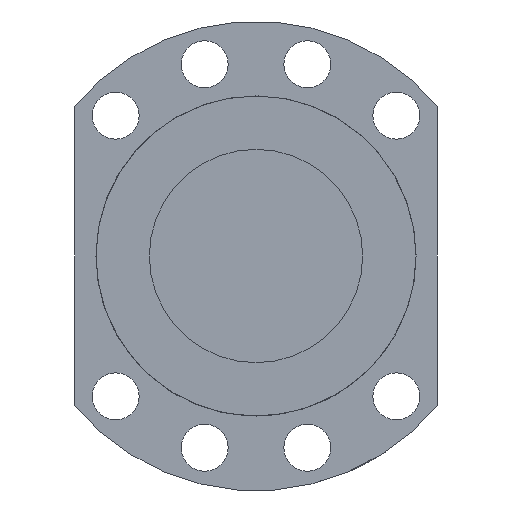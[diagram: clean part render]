
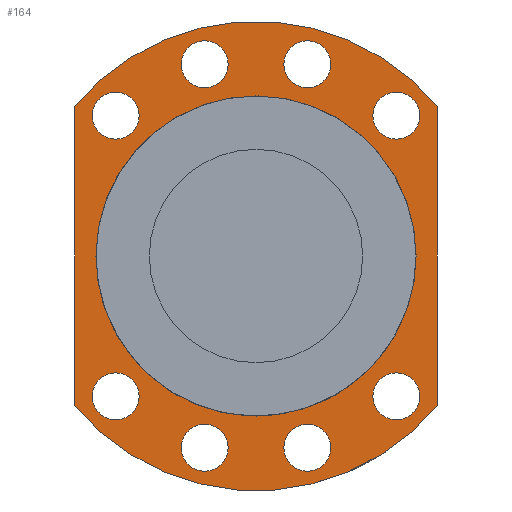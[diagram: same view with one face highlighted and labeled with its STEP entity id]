
A CAD part, front view. The second image highlights one B-rep face of the part: STEP entity #164.
In plain terms, the highlighted planar face has unit normal (0, -1, 0).
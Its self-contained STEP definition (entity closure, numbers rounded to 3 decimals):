
#98=LINE('',#921,#108);
#102=LINE('',#992,#112);
#108=VECTOR('',#729,1.);
#112=VECTOR('',#741,1.);
#137=PLANE('',#646);
#164=ADVANCED_FACE('',(#234,#235,#236,#237,#238,#239,#240,#241,#242,#243),
#137,.F.);
#234=FACE_BOUND('',#311,.T.);
#235=FACE_BOUND('',#312,.T.);
#236=FACE_BOUND('',#313,.T.);
#237=FACE_BOUND('',#314,.T.);
#238=FACE_BOUND('',#315,.T.);
#239=FACE_BOUND('',#316,.T.);
#240=FACE_BOUND('',#317,.T.);
#241=FACE_BOUND('',#318,.T.);
#242=FACE_BOUND('',#319,.T.);
#243=FACE_BOUND('',#320,.T.);
#311=EDGE_LOOP('',(#405));
#312=EDGE_LOOP('',(#406));
#313=EDGE_LOOP('',(#407));
#314=EDGE_LOOP('',(#408));
#315=EDGE_LOOP('',(#409));
#316=EDGE_LOOP('',(#410));
#317=EDGE_LOOP('',(#411));
#318=EDGE_LOOP('',(#412));
#319=EDGE_LOOP('',(#413));
#320=EDGE_LOOP('',(#414,#415,#416,#417));
#405=ORIENTED_EDGE('',*,*,#537,.F.);
#406=ORIENTED_EDGE('',*,*,#538,.F.);
#407=ORIENTED_EDGE('',*,*,#539,.F.);
#408=ORIENTED_EDGE('',*,*,#540,.F.);
#409=ORIENTED_EDGE('',*,*,#541,.T.);
#410=ORIENTED_EDGE('',*,*,#542,.T.);
#411=ORIENTED_EDGE('',*,*,#543,.T.);
#412=ORIENTED_EDGE('',*,*,#544,.T.);
#413=ORIENTED_EDGE('',*,*,#545,.T.);
#414=ORIENTED_EDGE('',*,*,#515,.F.);
#415=ORIENTED_EDGE('',*,*,#526,.F.);
#416=ORIENTED_EDGE('',*,*,#523,.F.);
#417=ORIENTED_EDGE('',*,*,#519,.F.);
#469=VERTEX_POINT('',#913);
#470=VERTEX_POINT('',#914);
#473=VERTEX_POINT('',#922);
#476=VERTEX_POINT('',#987);
#487=VERTEX_POINT('',#1015);
#488=VERTEX_POINT('',#1017);
#489=VERTEX_POINT('',#1019);
#490=VERTEX_POINT('',#1021);
#491=VERTEX_POINT('',#1023);
#492=VERTEX_POINT('',#1025);
#493=VERTEX_POINT('',#1027);
#494=VERTEX_POINT('',#1029);
#495=VERTEX_POINT('',#1031);
#515=EDGE_CURVE('',#469,#470,#566,.T.);
#519=EDGE_CURVE('',#470,#473,#98,.T.);
#523=EDGE_CURVE('',#473,#476,#568,.T.);
#526=EDGE_CURVE('',#476,#469,#102,.T.);
#537=EDGE_CURVE('',#487,#487,#579,.T.);
#538=EDGE_CURVE('',#488,#488,#580,.T.);
#539=EDGE_CURVE('',#489,#489,#581,.T.);
#540=EDGE_CURVE('',#490,#490,#582,.T.);
#541=EDGE_CURVE('',#491,#491,#583,.T.);
#542=EDGE_CURVE('',#492,#492,#584,.T.);
#543=EDGE_CURVE('',#493,#493,#585,.T.);
#544=EDGE_CURVE('',#494,#494,#586,.T.);
#545=EDGE_CURVE('',#495,#495,#587,.T.);
#566=CIRCLE('',#619,55.);
#568=CIRCLE('',#623,55.);
#579=CIRCLE('',#637,5.5);
#580=CIRCLE('',#638,5.5);
#581=CIRCLE('',#639,5.5);
#582=CIRCLE('',#640,5.5);
#583=CIRCLE('',#641,5.5);
#584=CIRCLE('',#642,5.5);
#585=CIRCLE('',#643,5.5);
#586=CIRCLE('',#644,5.5);
#587=CIRCLE('',#645,37.5);
#619=AXIS2_PLACEMENT_3D('',#912,#721,#722);
#623=AXIS2_PLACEMENT_3D('',#986,#734,#735);
#637=AXIS2_PLACEMENT_3D('',#1014,#765,#766);
#638=AXIS2_PLACEMENT_3D('',#1016,#767,#768);
#639=AXIS2_PLACEMENT_3D('',#1018,#769,#770);
#640=AXIS2_PLACEMENT_3D('',#1020,#771,#772);
#641=AXIS2_PLACEMENT_3D('',#1022,#773,#774);
#642=AXIS2_PLACEMENT_3D('',#1024,#775,#776);
#643=AXIS2_PLACEMENT_3D('',#1026,#777,#778);
#644=AXIS2_PLACEMENT_3D('',#1028,#779,#780);
#645=AXIS2_PLACEMENT_3D('',#1030,#781,#782);
#646=AXIS2_PLACEMENT_3D('',#1032,#783,#784);
#721=DIRECTION('',(0.,1.,0.));
#722=DIRECTION('',(1.,0.,0.));
#729=DIRECTION('',(0.,0.,-1.));
#734=DIRECTION('',(0.,1.,0.));
#735=DIRECTION('',(1.,0.,0.));
#741=DIRECTION('',(0.,0.,1.));
#765=DIRECTION('',(0.,-1.,0.));
#766=DIRECTION('',(-1.,0.,0.));
#767=DIRECTION('',(0.,-1.,0.));
#768=DIRECTION('',(-0.866,0.,-0.5));
#769=DIRECTION('',(0.,-1.,0.));
#770=DIRECTION('',(-0.5,0.,-0.866));
#771=DIRECTION('',(0.,-1.,0.));
#772=DIRECTION('',(0.,0.,-1.));
#773=DIRECTION('',(0.,1.,0.));
#774=DIRECTION('',(-1.,0.,0.));
#775=DIRECTION('',(0.,1.,0.));
#776=DIRECTION('',(-0.866,0.,0.5));
#777=DIRECTION('',(0.,1.,0.));
#778=DIRECTION('',(-0.5,0.,0.866));
#779=DIRECTION('',(0.,1.,0.));
#780=DIRECTION('',(0.,0.,1.));
#781=DIRECTION('',(0.,1.,0.));
#782=DIRECTION('',(1.,0.,0.));
#783=DIRECTION('',(0.,1.,0.));
#784=DIRECTION('',(0.,0.,1.));
#912=CARTESIAN_POINT('',(0.,-44.,0.));
#913=CARTESIAN_POINT('',(-42.5,-44.,34.911));
#914=CARTESIAN_POINT('',(42.5,-44.,34.911));
#921=CARTESIAN_POINT('',(42.5,-44.,34.911));
#922=CARTESIAN_POINT('',(42.5,-44.,-34.911));
#986=CARTESIAN_POINT('',(0.,-44.,0.));
#987=CARTESIAN_POINT('',(-42.5,-44.,-34.911));
#992=CARTESIAN_POINT('',(-42.5,-44.,-34.911));
#1014=CARTESIAN_POINT('',(32.88,-44.,32.88));
#1015=CARTESIAN_POINT('',(27.38,-44.,32.88));
#1016=CARTESIAN_POINT('',(12.035,-44.,44.916));
#1017=CARTESIAN_POINT('',(7.272,-44.,42.166));
#1018=CARTESIAN_POINT('',(-12.035,-44.,44.916));
#1019=CARTESIAN_POINT('',(-14.785,-44.,40.152));
#1020=CARTESIAN_POINT('',(-32.88,-44.,32.88));
#1021=CARTESIAN_POINT('',(-32.88,-44.,27.38));
#1022=CARTESIAN_POINT('',(32.88,-44.,-32.88));
#1023=CARTESIAN_POINT('',(27.38,-44.,-32.88));
#1024=CARTESIAN_POINT('',(12.035,-44.,-44.916));
#1025=CARTESIAN_POINT('',(7.272,-44.,-42.166));
#1026=CARTESIAN_POINT('',(-12.035,-44.,-44.916));
#1027=CARTESIAN_POINT('',(-14.785,-44.,-40.152));
#1028=CARTESIAN_POINT('',(-32.88,-44.,-32.88));
#1029=CARTESIAN_POINT('',(-32.88,-44.,-27.38));
#1030=CARTESIAN_POINT('',(0.,-44.,0.));
#1031=CARTESIAN_POINT('',(37.5,-44.,0.));
#1032=CARTESIAN_POINT('',(0.,-44.,0.));
